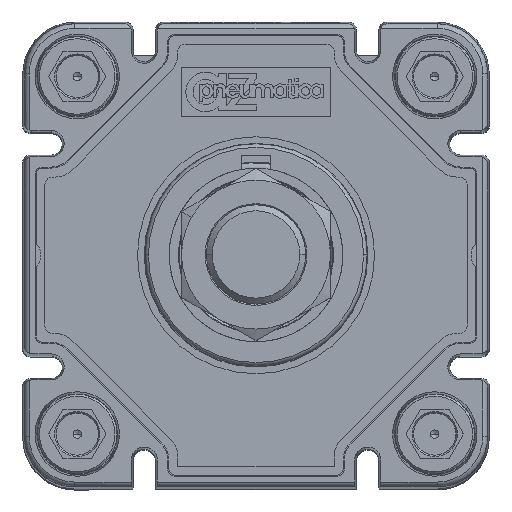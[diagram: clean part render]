
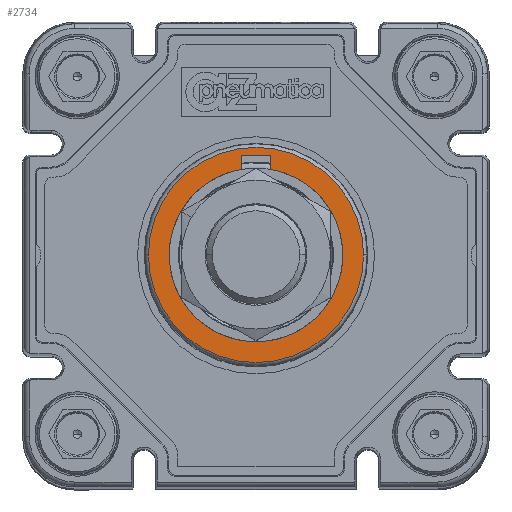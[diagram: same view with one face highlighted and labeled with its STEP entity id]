
A CAD part, top view. The second image highlights one B-rep face of the part: STEP entity #2734.
In plain terms, the highlighted planar face has unit normal (0, 0, 1) as drawn and (0, 0, -1) by its records, which use the part's own axes.
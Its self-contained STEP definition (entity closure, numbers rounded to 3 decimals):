
#691 = CARTESIAN_POINT ( 'NONE',  ( 3., 17.241, -68.1 ) ) ;
#1236 = EDGE_CURVE ( 'NONE', #11880, #36236, #29020, .T. ) ;
#1605 = DIRECTION ( 'NONE',  ( 0., -1., 0. ) ) ;
#2734 = ADVANCED_FACE ( 'NONE', ( #30646, #2765 ), #22445, .T. ) ;
#2765 = FACE_BOUND ( 'NONE', #13504, .T. ) ;
#3896 = CIRCLE ( 'NONE', #49941, 21.674 ) ;
#5208 = LINE ( 'NONE', #21472, #49104 ) ;
#5645 = ORIENTED_EDGE ( 'NONE', *, *, #1236, .T. ) ;
#9498 = EDGE_CURVE ( 'NONE', #36236, #11122, #39123, .T. ) ;
#10685 = VERTEX_POINT ( 'NONE', #43679 ) ;
#11122 = VERTEX_POINT ( 'NONE', #43810 ) ;
#11880 = VERTEX_POINT ( 'NONE', #23929 ) ;
#11884 = CARTESIAN_POINT ( 'NONE',  ( -3., 20., -68.1 ) ) ;
#13504 = EDGE_LOOP ( 'NONE', ( #24591, #38147, #30827, #21033, #5645 ) ) ;
#13849 = VERTEX_POINT ( 'NONE', #35358 ) ;
#13963 = CARTESIAN_POINT ( 'NONE',  ( 3., 20., -68.1 ) ) ;
#14013 = CARTESIAN_POINT ( 'NONE',  ( -3., 20., -68.1 ) ) ;
#14045 = DIRECTION ( 'NONE',  ( 0., 0., -1. ) ) ;
#17115 = VECTOR ( 'NONE', #25861, 1000. ) ;
#18028 = CARTESIAN_POINT ( 'NONE',  ( 0., 0., -68.1 ) ) ;
#19552 = DIRECTION ( 'NONE',  ( -1., 0., 0. ) ) ;
#19739 = CIRCLE ( 'NONE', #44516, 21.674 ) ;
#20041 = CARTESIAN_POINT ( 'NONE',  ( 0., 0., -68.1 ) ) ;
#20444 = CIRCLE ( 'NONE', #36496, 17.5 ) ;
#21033 = ORIENTED_EDGE ( 'NONE', *, *, #32618, .T. ) ;
#21472 = CARTESIAN_POINT ( 'NONE',  ( 3., 20., -68.1 ) ) ;
#22445 = PLANE ( 'NONE',  #43080 ) ;
#22489 = VERTEX_POINT ( 'NONE', #691 ) ;
#22615 = DIRECTION ( 'NONE',  ( -1., 0., 0. ) ) ;
#23467 = CARTESIAN_POINT ( 'NONE',  ( 0., 0., -68.1 ) ) ;
#23719 = DIRECTION ( 'NONE',  ( 0., 0., 1. ) ) ;
#23929 = CARTESIAN_POINT ( 'NONE',  ( 3., 20., -68.1 ) ) ;
#24591 = ORIENTED_EDGE ( 'NONE', *, *, #9498, .T. ) ;
#25636 = VERTEX_POINT ( 'NONE', #45703 ) ;
#25861 = DIRECTION ( 'NONE',  ( 0., -1., 0. ) ) ;
#25879 = CARTESIAN_POINT ( 'NONE',  ( 0., 0., -68.1 ) ) ;
#27970 = DIRECTION ( 'NONE',  ( -1., 0., 0. ) ) ;
#29020 = LINE ( 'NONE', #13963, #37715 ) ;
#29279 = EDGE_CURVE ( 'NONE', #25636, #10685, #19739, .T. ) ;
#29607 = DIRECTION ( 'NONE',  ( 0., 1., 0. ) ) ;
#29869 = ORIENTED_EDGE ( 'NONE', *, *, #49397, .F. ) ;
#30572 = DIRECTION ( 'NONE',  ( 0., 0., 1. ) ) ;
#30646 = FACE_OUTER_BOUND ( 'NONE', #33268, .T. ) ;
#30827 = ORIENTED_EDGE ( 'NONE', *, *, #52057, .T. ) ;
#30856 = DIRECTION ( 'NONE',  ( 0., 0., 1. ) ) ;
#31639 = ORIENTED_EDGE ( 'NONE', *, *, #29279, .F. ) ;
#32470 = CARTESIAN_POINT ( 'NONE',  ( 0., 0., -68.1 ) ) ;
#32618 = EDGE_CURVE ( 'NONE', #22489, #11880, #5208, .T. ) ;
#33268 = EDGE_LOOP ( 'NONE', ( #29869, #31639 ) ) ;
#33305 = CIRCLE ( 'NONE', #45865, 17.5 ) ;
#35358 = CARTESIAN_POINT ( 'NONE',  ( 0., -17.5, -68.1 ) ) ;
#36236 = VERTEX_POINT ( 'NONE', #11884 ) ;
#36496 = AXIS2_PLACEMENT_3D ( 'NONE', #25879, #30572, #43454 ) ;
#37715 = VECTOR ( 'NONE', #19552, 1000. ) ;
#38147 = ORIENTED_EDGE ( 'NONE', *, *, #46256, .T. ) ;
#39123 = LINE ( 'NONE', #14013, #17115 ) ;
#43080 = AXIS2_PLACEMENT_3D ( 'NONE', #32470, #14045, #22615 ) ;
#43454 = DIRECTION ( 'NONE',  ( 0., -1., 0. ) ) ;
#43679 = CARTESIAN_POINT ( 'NONE',  ( -21.674, 0., -68.1 ) ) ;
#43810 = CARTESIAN_POINT ( 'NONE',  ( -3., 17.241, -68.1 ) ) ;
#43904 = DIRECTION ( 'NONE',  ( -1., 0., 0. ) ) ;
#44516 = AXIS2_PLACEMENT_3D ( 'NONE', #18028, #30856, #43904 ) ;
#45703 = CARTESIAN_POINT ( 'NONE',  ( 21.674, 0., -68.1 ) ) ;
#45865 = AXIS2_PLACEMENT_3D ( 'NONE', #23467, #52917, #1605 ) ;
#46256 = EDGE_CURVE ( 'NONE', #11122, #13849, #20444, .T. ) ;
#49104 = VECTOR ( 'NONE', #29607, 1000. ) ;
#49397 = EDGE_CURVE ( 'NONE', #10685, #25636, #3896, .T. ) ;
#49941 = AXIS2_PLACEMENT_3D ( 'NONE', #20041, #23719, #27970 ) ;
#52057 = EDGE_CURVE ( 'NONE', #13849, #22489, #33305, .T. ) ;
#52917 = DIRECTION ( 'NONE',  ( 0., 0., 1. ) ) ;
